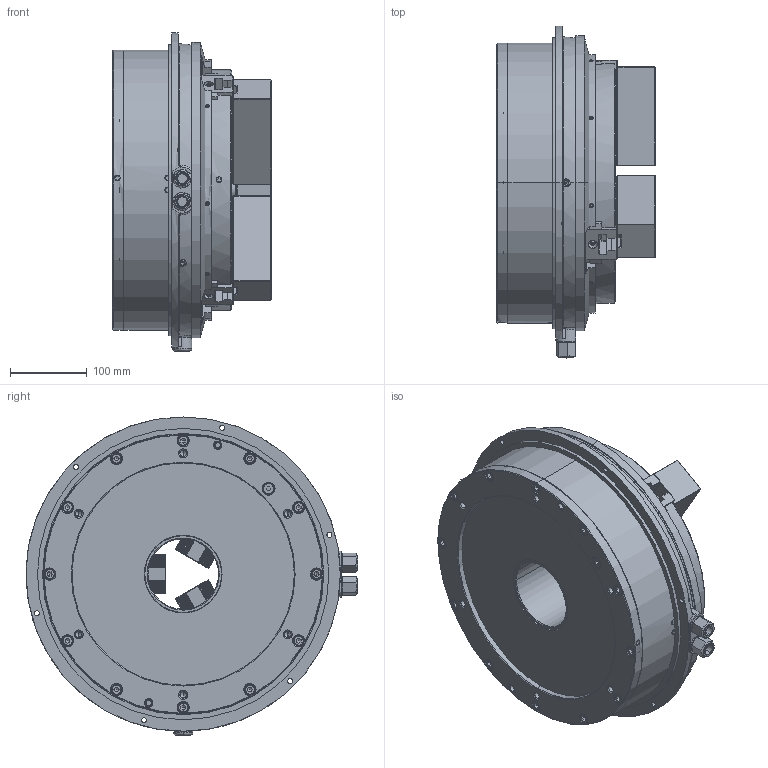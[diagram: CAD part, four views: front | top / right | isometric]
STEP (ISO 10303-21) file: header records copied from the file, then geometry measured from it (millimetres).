
FILE_DESCRIPTION (( 'STEP AP214' ), '1' );
FILE_NAME ('DEV-UVE315K-UC.STEP', '2024-10-03T00:50:15', ( '' ), ( '' ), 'SwSTEP 2.0', 'SolidWorks 2022', '' );
FILE_SCHEMA (( 'AUTOMOTIVE_DESIGN' ));
Length unit declared in the file: millimetre
Products named in the file (6): DEV-UVE315K-UC; Copy of 0030114035^DEV-UVE315K-クミタテ; Copy of 61P401342^DEV-UVE315K-クミタテ; Copy of 0693000003^DEV-UVE315K-クミタテ; Copy of 61P301186^DEV-UVE315K-クミタテ; Part1^DEV-UVE315K-クミタテ
Assembly tree (18 placements, depth 2):
  DEV-UVE315K-UC
    Copy of 61P301186^DEV-UVE315K-クミタテ  x3
    Copy of 61P401342^DEV-UVE315K-クミタテ  x6
    Copy of 0030114035^DEV-UVE315K-クミタテ  x6
    Copy of 0693000003^DEV-UVE315K-クミタテ  x2
    Part1^DEV-UVE315K-クミタテ
Bounding box: 206.45 x 433 x 415 mm (x, y, z)
Volume: 15152189.2 mm3; surface area: 805012.4 mm2
Topology: 18 solids, 54 shells, 7070 faces, 19893 edges, 13006 vertices
Faces by surface type: plane 4055, cylinder 2076, cone 617, bspline 243, torus 59, sphere 20
Entity records: 176196 total; most frequent: CARTESIAN_POINT 51895, ORIENTED_EDGE 28464, DIRECTION 22342, EDGE_CURVE 14232, LINE 9368, VECTOR 9368, VERTEX_POINT 9351, AXIS2_PLACEMENT_3D 6487
